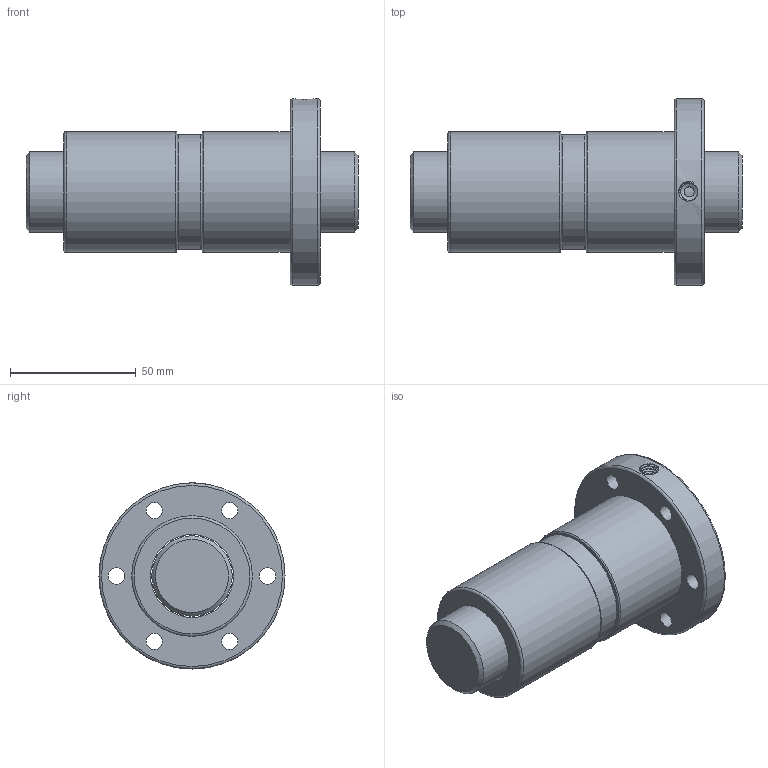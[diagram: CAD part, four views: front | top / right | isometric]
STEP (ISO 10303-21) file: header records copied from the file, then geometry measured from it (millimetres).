
FILE_DESCRIPTION(/* description */ ('Unknown','CAx-IF Rec.Pracs.---Representation and Presentation of Product Manufacturing Information (PMI)---4.0---2014-10-13','CAx-IF Rec.Pracs.---3D Tessellated Geometry---0.4---2014-09-14','2;1'),/* implementation_level */ '2;1');
FILE_NAME(/* name */ 'DFM03205',/* time_stamp */ '2020-12-08T11:48:48+08:00',/* author */ ('Unknown'),/* organization */ ('Unknown'),/* preprocessor_version */ 'ST-DEVELOPER v16.7',/* originating_system */ 'Solid Edge',/* authorisation */ 'Unknown');
FILE_SCHEMA (('AP242_MANAGED_MODEL_BASED_3D_ENGINEERING_MIM_LF { 1 0 10303 442 1 1 4 }'));
Length unit declared in the file: millimetre
Products named in the file (1): DFM03205
Bounding box: 132 x 74 x 74 mm (x, y, z)
Volume: 226044.6 mm3; surface area: 50713.7 mm2
Topology: 2 solids, 2 shells, 48 faces, 99 edges, 64 vertices
Faces by surface type: cylinder 22, plane 14, torus 7, cone 3, bspline 2
Full cylindrical faces by diameter (mm): 4 x1, 6.5 x6, 6.917 x1, 11 x6, 32 x1, 33 x1, 45.768 x1, 48 x2, 74 x1
Entity records: 2981 total; most frequent: CARTESIAN_POINT 2009, DIRECTION 200, ORIENTED_EDGE 122, EDGE_LOOP 103, FACE_BOUND 103, AXIS2_PLACEMENT_3D 101, EDGE_CURVE 61, VERTEX_POINT 56
